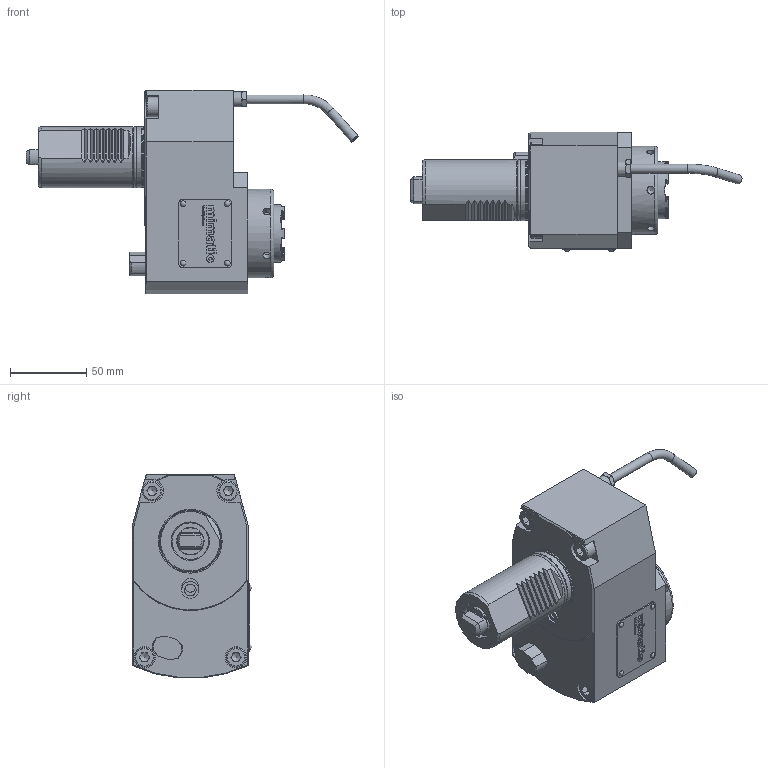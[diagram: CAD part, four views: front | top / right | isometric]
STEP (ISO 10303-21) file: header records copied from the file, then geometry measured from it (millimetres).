
FILE_DESCRIPTION(/* description */ (''),/* implementation_level */ '2;1');
FILE_NAME(/* name */ '100246',/* time_stamp */ '2020-02-26T11:43:24+01:00',/* author */ (''),/* organization */ (''),/* preprocessor_version */ 'ST-DEVELOPER v16.5',/* originating_system */ 'HiCAD 2017 2201.0 Build 268',/* authorisation */ '');
FILE_SCHEMA (('TECHNICAL_DATA_PACKAGING'));
Products named in the file (7): Root; Teil; ABCDEFGHIJKLMNOPQRSTUVWXYZ[\]^_`ABCDEFGHIJKLMNOP纐햷Ȧ; GEWINDE; DIN 13-M40x1,5; DIN 76-M6
Assembly tree (6 placements, depth 3):
  Root
    Teil
      ABCDEFGHIJKLMNOPQRSTUVWXYZ[\]^_`ABCDEFGHIJKLMNOP纐햷Ȧ
      GEWINDE
      GEWINDE
      DIN 13-M40x1,5
      DIN 76-M6
Bounding box: 217.67 x 78.29 x 133.66 mm (x, y, z)
Volume: 712321.2 mm3; surface area: 82821.1 mm2
Topology: 7 solids, 16 shells, 699 faces, 1784 edges, 1170 vertices
Faces by surface type: plane 419, cylinder 180, bspline 38, cone 32, torus 26, sphere 4
Full cylindrical faces by diameter (mm): 2 x4, 2.2 x4, 4 x2, 4.773 x2, 5 x1, 5.1 x6, 6 x5, 6.8 x1, 7.65 x1, 8.773 x2, 9 x5, 10 x1, 11.01 x1, 13 x4, 14 x2, 18 x1, 23.5 x1, 24 x2, 27 x2, 29.4 x1, 36.5 x2, 37.5 x1, 38 x1, 38.16 x2, 38.5 x1, 39.6 x1, 40 x5, 40.5 x1, 58 x1
Entity records: 45994 total; most frequent: CARTESIAN_POINT 11147, PRESENTATION_STYLE_ASSIGNMENT 3657, OVER_RIDING_STYLED_ITEM 3651, COLOUR_RGB 3251, DRAUGHTING_PRE_DEFINED_CURVE_FONT 3248, CURVE_STYLE 3248, ORIENTED_EDGE 3248, DIRECTION 3163
